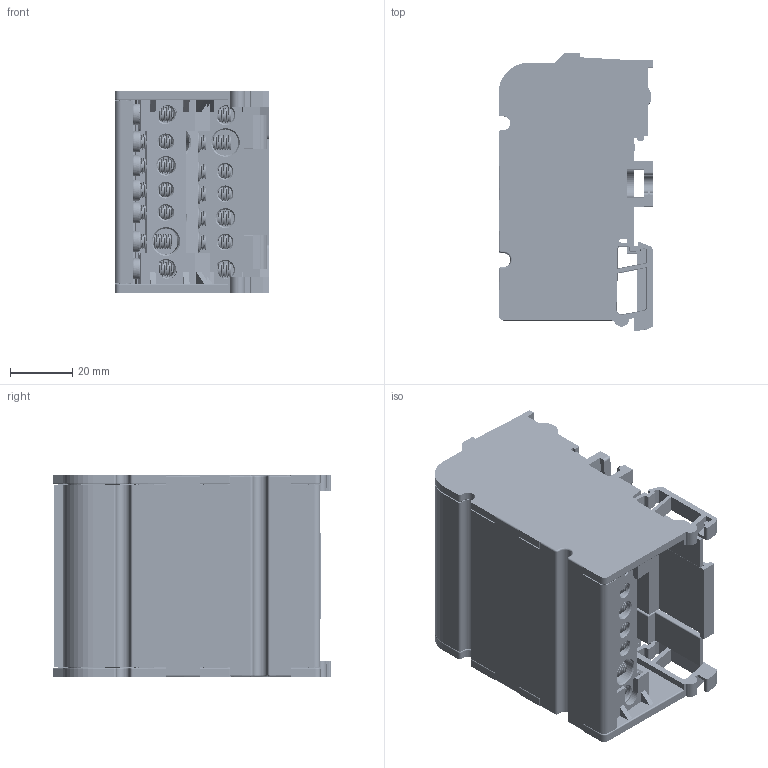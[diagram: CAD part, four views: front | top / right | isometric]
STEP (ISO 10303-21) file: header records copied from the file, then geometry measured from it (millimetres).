
FILE_DESCRIPTION(/* description */ (''),/* implementation_level */ '2;1');
FILE_NAME(/* name */ 'd_stp.stp',/* time_stamp */ '2021-12-02T11:09:57+08:00',/* author */ (''),/* organization */ (''),/* preprocessor_version */ 'ST-DEVELOPER v16',/* originating_system */ 'SIEMENS PLM Software NX 10.0',/* authorisation */ '');
FILE_SCHEMA (('AUTOMOTIVE_DESIGN { 1 0 10303 214 3 1 1 1 }'));
Products named in the file (1): Admi1710B0B8gvj5
Bounding box: 49.75 x 89.22 x 64.6 mm (x, y, z)
Volume: 74926.9 mm3; surface area: 87785.1 mm2
Topology: 40 solids, 40 shells, 2878 faces, 7650 edges, 4954 vertices
Faces by surface type: plane 1376, cylinder 722, bspline 518, cone 126, torus 106, sphere 30
Full cylindrical faces by diameter (mm): 4.6 x12, 5.2 x4, 5.6 x12, 6.8 x28, 8.4 x4
Entity records: 346214 total; most frequent: CARTESIAN_POINT 281248, ORIENTED_EDGE 14736, DIRECTION 10728, EDGE_CURVE 7368, VERTEX_POINT 4856, LINE 3612, VECTOR 3612, AXIS2_PLACEMENT_3D 3558
